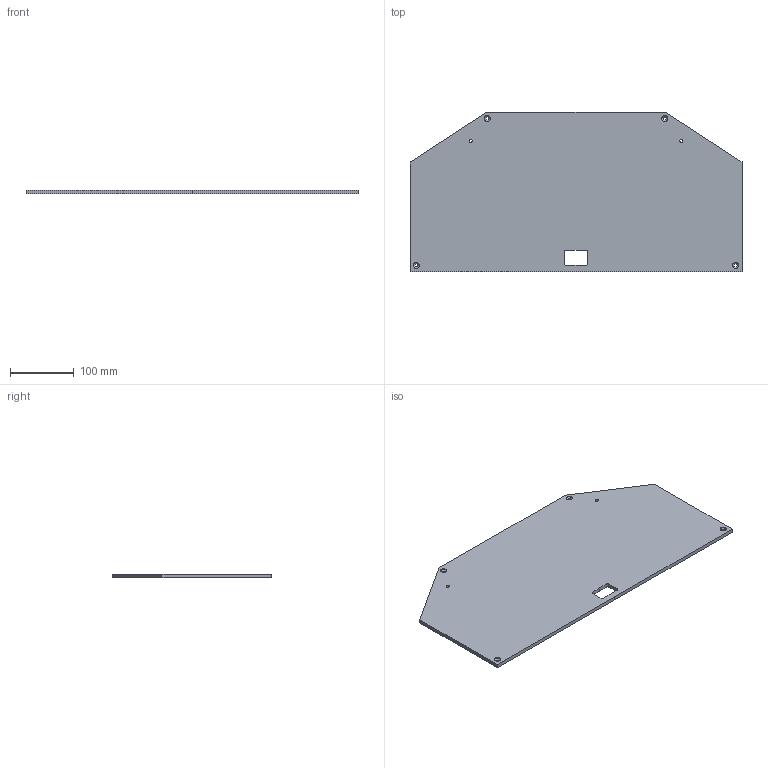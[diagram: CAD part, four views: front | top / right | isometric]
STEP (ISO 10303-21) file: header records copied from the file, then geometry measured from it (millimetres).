
FILE_DESCRIPTION(('CATIA V5 STEP Exchange'),'2;1');
FILE_NAME('C:\Users\Alexis David Sanna\Documents\INVESTIGACION\ROMAA NUEVO (MOTOR REMSSI)\STEP\placa superior delantera-M.stp','2010-10-29T19:48:08+00:00',('none'),('none'),'CATIA Version 5 Release 18 GA (IN-10)','CATIA V5 STEP AP203','none');
FILE_SCHEMA(('CONFIG_CONTROL_DESIGN'));
Length unit declared in the file: millimetre
Products named in the file (1): placa superior delantera-M
Bounding box: 520 x 250 x 6 mm (x, y, z)
Volume: 717521.3 mm3; surface area: 249141.6 mm2
Topology: 1 solids, 1 shells, 48 faces, 122 edges, 76 vertices
Faces by surface type: cylinder 24, plane 16, cone 8
Entity records: 1378 total; most frequent: ORIENTED_EDGE 244, CARTESIAN_POINT 229, DIRECTION 182, EDGE_CURVE 122, AXIS2_PLACEMENT_3D 79, VERTEX_POINT 76, VECTOR 74, LINE 74
